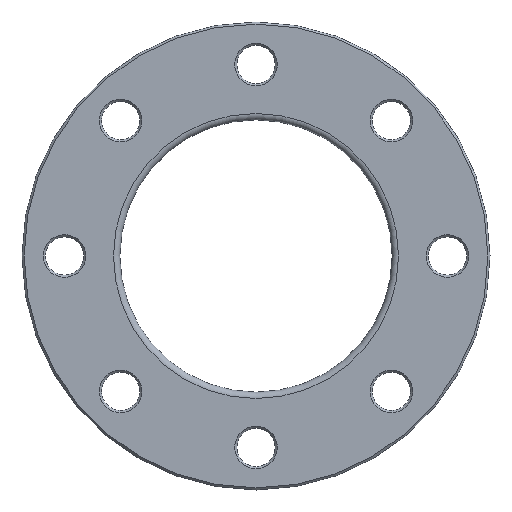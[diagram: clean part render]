
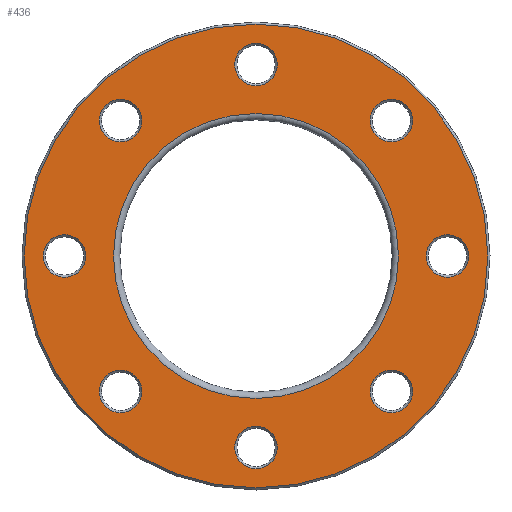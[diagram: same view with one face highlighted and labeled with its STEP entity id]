
A CAD part, front view. The second image highlights one B-rep face of the part: STEP entity #436.
In plain terms, the highlighted planar face has unit normal (0, -1, 0).
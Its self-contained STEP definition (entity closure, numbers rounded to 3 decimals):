
#23=PLANE('',#516);
#98=ORIENTED_EDGE('',*,*,#157,.T.);
#99=ORIENTED_EDGE('',*,*,#158,.T.);
#100=ORIENTED_EDGE('',*,*,#124,.T.);
#101=ORIENTED_EDGE('',*,*,#128,.T.);
#102=ORIENTED_EDGE('',*,*,#132,.T.);
#103=ORIENTED_EDGE('',*,*,#136,.T.);
#104=ORIENTED_EDGE('',*,*,#140,.T.);
#105=ORIENTED_EDGE('',*,*,#144,.T.);
#106=ORIENTED_EDGE('',*,*,#148,.T.);
#107=ORIENTED_EDGE('',*,*,#159,.T.);
#124=EDGE_CURVE('',#164,#164,#204,.T.);
#128=EDGE_CURVE('',#168,#168,#208,.T.);
#132=EDGE_CURVE('',#172,#172,#212,.T.);
#136=EDGE_CURVE('',#176,#176,#216,.T.);
#140=EDGE_CURVE('',#180,#180,#220,.T.);
#144=EDGE_CURVE('',#184,#184,#224,.T.);
#148=EDGE_CURVE('',#188,#188,#228,.T.);
#157=EDGE_CURVE('',#197,#197,#237,.F.);
#158=EDGE_CURVE('',#198,#198,#238,.T.);
#159=EDGE_CURVE('',#199,#199,#239,.T.);
#164=VERTEX_POINT('',#683);
#168=VERTEX_POINT('',#694);
#172=VERTEX_POINT('',#705);
#176=VERTEX_POINT('',#716);
#180=VERTEX_POINT('',#727);
#184=VERTEX_POINT('',#738);
#188=VERTEX_POINT('',#749);
#197=VERTEX_POINT('',#772);
#198=VERTEX_POINT('',#774);
#199=VERTEX_POINT('',#776);
#204=CIRCLE('',#461,10.);
#208=CIRCLE('',#468,10.);
#212=CIRCLE('',#475,10.);
#216=CIRCLE('',#482,10.);
#220=CIRCLE('',#489,10.);
#224=CIRCLE('',#496,10.);
#228=CIRCLE('',#503,10.);
#237=CIRCLE('',#517,109.);
#238=CIRCLE('',#518,67.);
#239=CIRCLE('',#519,10.);
#298=EDGE_LOOP('',(#98));
#299=EDGE_LOOP('',(#99));
#300=EDGE_LOOP('',(#100));
#301=EDGE_LOOP('',(#101));
#302=EDGE_LOOP('',(#102));
#303=EDGE_LOOP('',(#103));
#304=EDGE_LOOP('',(#104));
#305=EDGE_LOOP('',(#105));
#306=EDGE_LOOP('',(#106));
#307=EDGE_LOOP('',(#107));
#378=FACE_BOUND('',#298,.T.);
#379=FACE_BOUND('',#299,.T.);
#380=FACE_BOUND('',#300,.T.);
#381=FACE_BOUND('',#301,.T.);
#382=FACE_BOUND('',#302,.T.);
#383=FACE_BOUND('',#303,.T.);
#384=FACE_BOUND('',#304,.T.);
#385=FACE_BOUND('',#305,.T.);
#386=FACE_BOUND('',#306,.T.);
#387=FACE_BOUND('',#307,.T.);
#436=ADVANCED_FACE('',(#378,#379,#380,#381,#382,#383,#384,#385,#386,#387),
#23,.F.);
#461=AXIS2_PLACEMENT_3D('',#682,#539,#540);
#468=AXIS2_PLACEMENT_3D('',#693,#553,#554);
#475=AXIS2_PLACEMENT_3D('',#704,#567,#568);
#482=AXIS2_PLACEMENT_3D('',#715,#581,#582);
#489=AXIS2_PLACEMENT_3D('',#726,#595,#596);
#496=AXIS2_PLACEMENT_3D('',#737,#609,#610);
#503=AXIS2_PLACEMENT_3D('',#748,#623,#624);
#516=AXIS2_PLACEMENT_3D('',#770,#649,#650);
#517=AXIS2_PLACEMENT_3D('',#771,#651,#652);
#518=AXIS2_PLACEMENT_3D('',#773,#653,#654);
#519=AXIS2_PLACEMENT_3D('',#775,#655,#656);
#539=DIRECTION('',(0.,1.,0.));
#540=DIRECTION('',(0.707,0.,0.707));
#553=DIRECTION('',(0.,1.,0.));
#554=DIRECTION('',(0.,0.,1.));
#567=DIRECTION('',(0.,1.,0.));
#568=DIRECTION('',(-0.707,0.,0.707));
#581=DIRECTION('',(0.,1.,0.));
#582=DIRECTION('',(-1.,0.,0.));
#595=DIRECTION('',(0.,1.,0.));
#596=DIRECTION('',(-0.707,0.,-0.707));
#609=DIRECTION('',(0.,1.,0.));
#610=DIRECTION('',(0.,0.,-1.));
#623=DIRECTION('',(0.,1.,0.));
#624=DIRECTION('',(0.707,0.,-0.707));
#649=DIRECTION('',(0.,1.,0.));
#650=DIRECTION('',(0.,0.,1.));
#651=DIRECTION('',(0.,1.,0.));
#652=DIRECTION('',(0.,0.,1.));
#653=DIRECTION('',(0.,1.,0.));
#654=DIRECTION('',(0.,0.,1.));
#655=DIRECTION('',(0.,1.,0.));
#656=DIRECTION('',(1.,0.,0.));
#682=CARTESIAN_POINT('',(-63.64,0.,63.64));
#683=CARTESIAN_POINT('',(-56.569,0.,70.711));
#693=CARTESIAN_POINT('',(-90.,0.,0.));
#694=CARTESIAN_POINT('',(-90.,0.,10.));
#704=CARTESIAN_POINT('',(-63.64,0.,-63.64));
#705=CARTESIAN_POINT('',(-70.711,0.,-56.569));
#715=CARTESIAN_POINT('',(0.,0.,-90.));
#716=CARTESIAN_POINT('',(-10.,0.,-90.));
#726=CARTESIAN_POINT('',(63.64,0.,-63.64));
#727=CARTESIAN_POINT('',(56.569,0.,-70.711));
#737=CARTESIAN_POINT('',(90.,0.,0.));
#738=CARTESIAN_POINT('',(90.,0.,-10.));
#748=CARTESIAN_POINT('',(63.64,0.,63.64));
#749=CARTESIAN_POINT('',(70.711,0.,56.569));
#770=CARTESIAN_POINT('',(0.,0.,0.));
#771=CARTESIAN_POINT('',(0.,0.,0.));
#772=CARTESIAN_POINT('',(0.,0.,109.));
#773=CARTESIAN_POINT('',(0.,0.,0.));
#774=CARTESIAN_POINT('',(0.,0.,67.));
#775=CARTESIAN_POINT('',(0.,0.,90.));
#776=CARTESIAN_POINT('',(10.,0.,90.));
